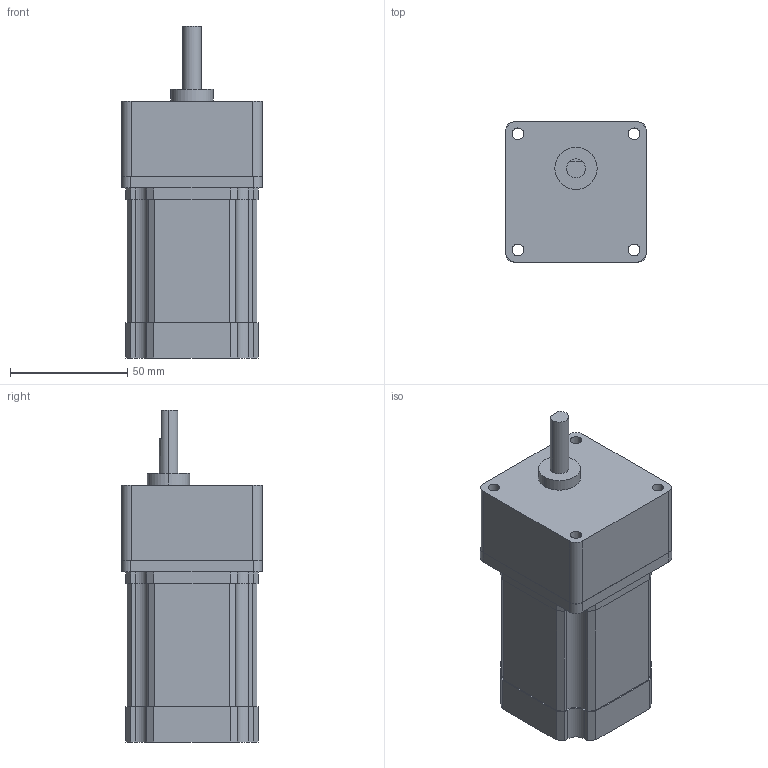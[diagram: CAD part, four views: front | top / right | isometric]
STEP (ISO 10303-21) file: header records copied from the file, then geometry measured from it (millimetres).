
FILE_DESCRIPTION (( 'STEP AP214' ), '1' );
FILE_NAME ('EXMK268-02GA-10K.STEP', '2016-09-09T03:54:43', ( 'hoho' ), ( '' ), 'SwSTEP 2.0', 'SolidWorks 2013', '' );
FILE_SCHEMA (( 'AUTOMOTIVE_DESIGN' ));
Length unit declared in the file: millimetre
Products named in the file (1): EXMK268-02GA-10K
Bounding box: 60 x 60 x 141.5 mm (x, y, z)
Volume: 333193.5 mm3; surface area: 33837.9 mm2
Topology: 1 solids, 1 shells, 110 faces, 306 edges, 204 vertices
Faces by surface type: plane 78, cylinder 32
Entity records: 3929 total; most frequent: CARTESIAN_POINT 621, ORIENTED_EDGE 612, DIRECTION 594, EDGE_CURVE 306, LINE 240, VECTOR 240, VERTEX_POINT 204, AXIS2_PLACEMENT_3D 177
